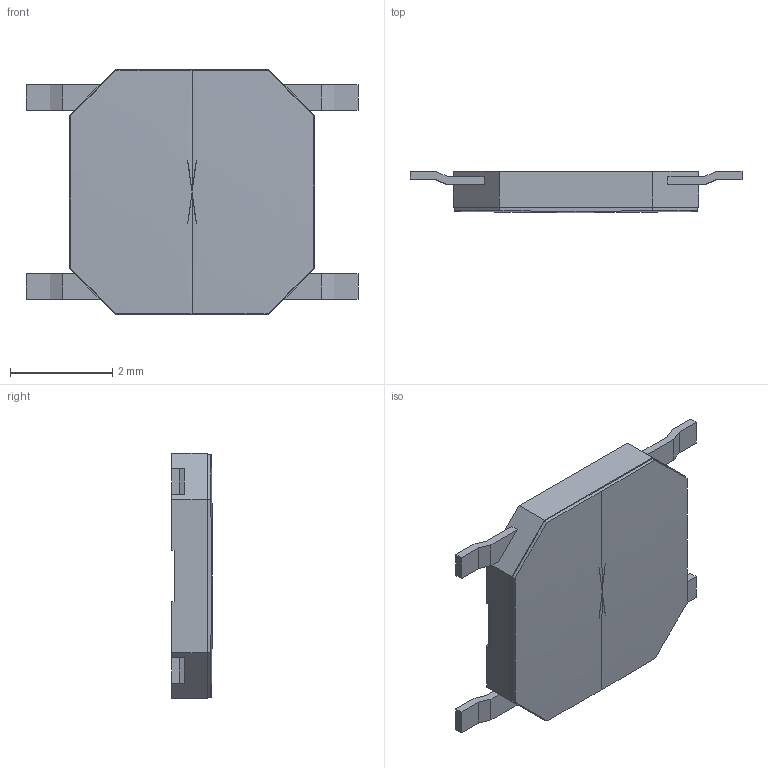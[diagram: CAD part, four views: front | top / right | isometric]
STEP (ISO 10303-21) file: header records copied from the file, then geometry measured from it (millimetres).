
FILE_DESCRIPTION((''),'2;1');
FILE_NAME('JQA4848-B0080-01EG-1-105_ASM','2026-05-22T16:56:15',('Admin'),(''),'CREO PARAMETRIC BY PTC INC, 2019224','CREO PARAMETRIC BY PTC INC, 2019224','');
FILE_SCHEMA(('AUTOMOTIVE_DESIGN { 1 0 10303 214 1 1 1 1 }'));
Length unit declared in the file: millimetre
Products named in the file (3): JQA4848-B0080-01EG-1-105_01; JQA4848-B0080-01EG-1-105_02; JQA4848-B0080-01EG-1-105_ASM
Assembly tree (2 placements, depth 2):
  JQA4848-B0080-01EG-1-105_ASM
    JQA4848-B0080-01EG-1-105_01
    JQA4848-B0080-01EG-1-105_02
Bounding box: 6.5 x 0.8 x 4.8 mm (x, y, z)
Volume: 14.4 mm3; surface area: 112.6 mm2
Topology: 2 solids, 2 shells, 97 faces, 270 edges, 180 vertices
Faces by surface type: plane 89, cylinder 4, sphere 2, revolution 2
Entity records: 4883 total; most frequent: CARTESIAN_POINT 658, ORIENTED_EDGE 528, DIRECTION 494, PRESENTATION_STYLE_ASSIGNMENT 333, STYLED_ITEM 271, CURVE_STYLE 269, EDGE_CURVE 264, VECTOR 228
